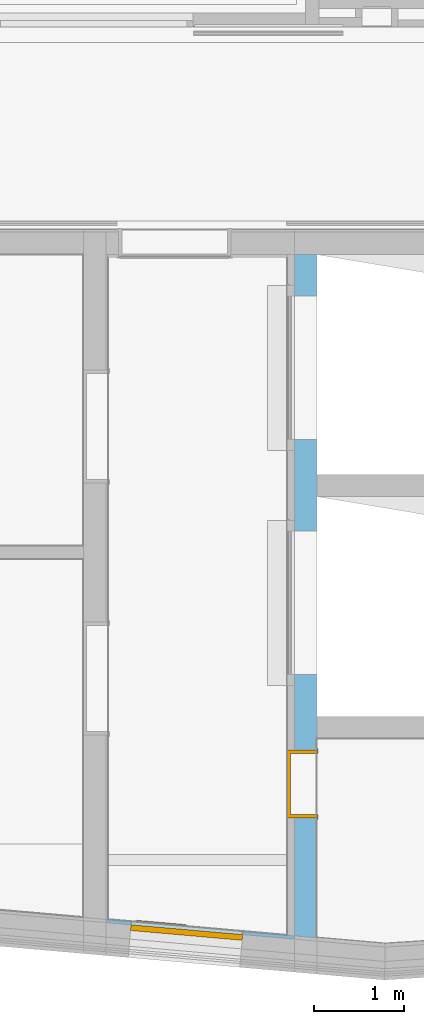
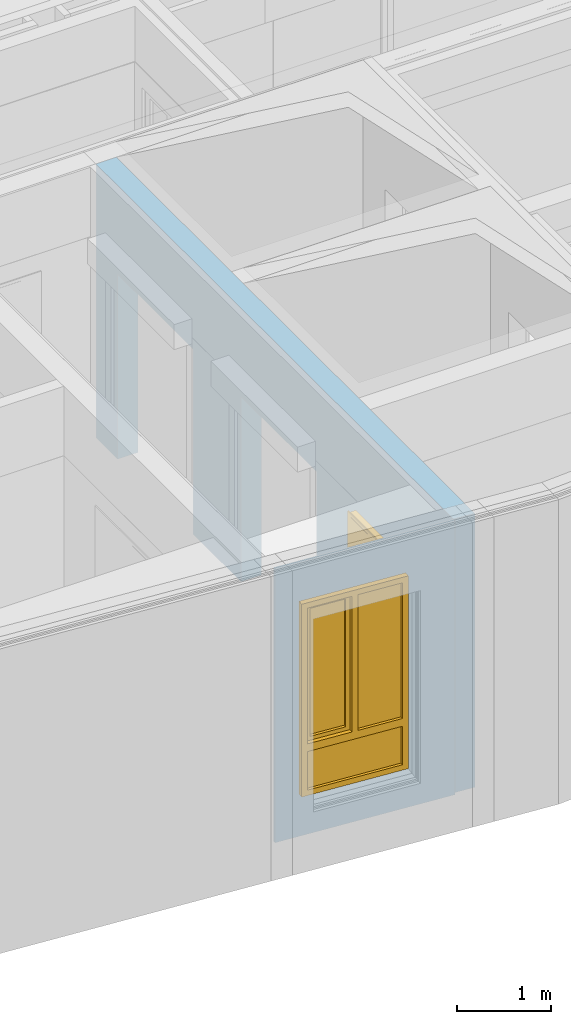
# One storey, part 79 of 222: 1 door, 1 window, 5 openings, plus 2 elements that do not belong to this part.
"""IFC4 building model written with IfcOpenShell, lengths in metres."""

from ifc_helpers import new_model, entity, si_unit, converted_unit, derived_unit, frame, origin, origin_with_axes, place, context, subcontext, project, spatial, polyline, outline, extrude, closed_shell, open_shell, faceted_brep, surface_model, source, transform, mapped, material, type_object, element, fill, save


model = new_model("IFC4")

# Units and contexts
model_context = context("Model", 3, precision=1e-05, world=origin())
body_context = subcontext(model_context, "Body", "Model", "MODEL_VIEW")
ifc_project = project(units=[si_unit("LENGTHUNIT", "METRE"), si_unit("AREAUNIT", "SQUARE_METRE"), si_unit("VOLUMEUNIT", "CUBIC_METRE"), si_unit("MASSUNIT", "GRAM", prefix="KILO"), converted_unit("PLANEANGLEUNIT", "DEGREE", entity("IfcPlaneAngleMeasure", 0.0174532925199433), si_unit("PLANEANGLEUNIT", "RADIAN"), dimensions=[0, 0, 0, 0, 0, 0, 0]), derived_unit("THERMALTRANSMITTANCEUNIT", [(si_unit("POWERUNIT", "WATT"), 1), (si_unit("THERMODYNAMICTEMPERATUREUNIT", "KELVIN"), -1), (si_unit("LENGTHUNIT", "METRE"), -2)]), derived_unit("VOLUMETRICFLOWRATEUNIT", [(si_unit("LENGTHUNIT", "METRE"), 3), (converted_unit("TIMEUNIT", "hour", entity("IfcTimeMeasure", 3600.0), si_unit("TIMEUNIT", "SECOND"), dimensions=[0, 0, 1, 0, 0, 0, 0]), -1), (si_unit("LENGTHUNIT", "METRE"), -1)])], contexts=[model_context])

# Site, building, storey
site_placement = place(None, origin())
site = spatial("IfcSite", under=ifc_project, at=site_placement, Name="Psychiatrie Neubau Wunstorf", CompositionType="ELEMENT")
building_placement = place(site_placement, origin())
building = spatial("IfcBuilding", under=site, at=building_placement, Name="Neubau H2 Stationsgebäude", CompositionType="ELEMENT")
storey_placement = place(building_placement, frame((0.0, 0.0, 3.6)))
storey = spatial("IfcBuildingStorey", under=building, at=storey_placement, Name="H2 Ebene +1", CompositionType="ELEMENT", Elevation=3.6)

# Wall, openings, window
ifc_material_1 = material(Name="WA-LB")
wall_1_placement = place(storey_placement, frame((47.0200048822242, -7.32418715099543, 0.0), z_axis=(0.0, 0.0, 1.0), x_axis=(-0.996173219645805, 0.0874008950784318, 0.0)))
wall_1 = element("IfcWall", 1, at=wall_1_placement, inside=storey, material=ifc_material_1, context=body_context, shape_type="SweptSolid", body=[
    extrude(outline(polyline([(-2.09276433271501, -0.2198892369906), (0.0192923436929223, -0.2198892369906), (0.016133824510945, -0.183889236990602), (-2.09592285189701, -0.183889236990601), (-2.09276433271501, -0.2198892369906)])), frame((2.09276433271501, 0.2198892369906, 0.0), z_axis=(0.0, 0.0, 1.0), x_axis=(1.0, 0.0, 0.0)), (0.0, 0.0, 1.0), 3.55),
])
opening_1_placement = place(wall_1_placement, frame((1.82678624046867, 0.195998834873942, 0.55), z_axis=(1.5631940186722e-14, -1.0, 0.0), x_axis=(0.0, 0.0, 1.0)))
element("IfcOpeningElement", 2, at=opening_1_placement, cuts=wall_1, Name="Fensteröffnung", ObjectType="Opening", context=body_context, shape_type="SweptSolid", body=[
    extrude(outline(polyline([(2.5, 1.25), (2.5, 0.0), (0.0, 0.0), (0.0, 1.25), (2.5, 1.25)])), origin_with_axes(), (0.0, 0.0, 1.0), 0.160000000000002),
])
opening_2_placement = place(wall_1_placement, frame((1.82678624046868, 0.0359988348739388, 0.55), z_axis=(8.21071605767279e-14, -1.0, 0.0), x_axis=(0.0, 0.0, 1.0)))
opening_2 = element("IfcOpeningElement", 3, at=opening_2_placement, cuts=wall_1, Name="Fensteröffnung", ObjectType="Opening", context=body_context, shape_type="SweptSolid", body=[
    extrude(outline(polyline([(2.5, 1.25), (2.5, 0.0), (0.0, 0.0), (0.0, 1.25), (2.5, 1.25)])), origin_with_axes(), (0.0, 0.0, 1.0), 0.0359999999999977),
])
shared_shape_1 = source(origin_with_axes(), body_context, "Body", "SurfaceModel", [
    surface_model("IfcShellBasedSurfaceModel", [(1.25000000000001, 0.0, 2.5), (1.25000000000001, 0.0, 0.0), (1.18000000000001, 0.0, 0.0), (1.18000000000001, 0.0, 2.5), (1.25000000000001, 0.0699999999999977, 0.0), (1.25000000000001, 0.0699999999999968, 2.5), (1.18000000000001, 0.0699999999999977, 2.5), (1.18000000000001, 0.0699999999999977, 0.0)], [closed_shell([[[0, 1, 2, 3]], [[4, 5, 6, 7]], [[1, 0, 5, 4]], [[2, 1, 4, 7]], [[3, 2, 7, 6]], [[0, 3, 6, 5]]], orient=[[False], [False], [False], [False], [False], [False]])]),
    surface_model("IfcShellBasedSurfaceModel", [(0.0700000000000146, 0.0, 2.5), (0.0700000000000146, 0.0, 0.0), (0.0, 0.0, 0.0), (0.0, 0.0, 2.5), (0.0700000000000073, 0.0699999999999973, 0.0), (0.0700000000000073, 0.0699999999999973, 2.5), (0.0, 0.0699999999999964, 2.5), (0.0, 0.0699999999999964, 0.0)], [closed_shell([[[0, 1, 2, 3]], [[4, 5, 6, 7]], [[1, 0, 5, 4]], [[2, 1, 4, 7]], [[3, 2, 7, 6]], [[0, 3, 6, 5]]], orient=[[False], [False], [False], [False], [False], [False]])]),
    surface_model("IfcShellBasedSurfaceModel", [(1.18000000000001, 0.0, 0.07), (1.18000000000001, 0.0, 0.0), (0.0700000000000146, 0.0, 0.0), (0.0700000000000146, 0.0, 0.07), (1.18000000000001, 0.0699999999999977, 0.0), (1.18000000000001, 0.0699999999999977, 0.07), (0.0700000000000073, 0.0699999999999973, 0.07), (0.0700000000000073, 0.0699999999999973, 0.0)], [closed_shell([[[0, 1, 2, 3]], [[4, 5, 6, 7]], [[1, 0, 5, 4]], [[2, 1, 4, 7]], [[3, 2, 7, 6]], [[0, 3, 6, 5]]], orient=[[False], [False], [False], [False], [False], [False]])]),
    surface_model("IfcShellBasedSurfaceModel", [(1.18000000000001, 0.0, 2.5), (1.18000000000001, 0.0, 2.43), (0.0700000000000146, 0.0, 2.43), (0.0700000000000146, 0.0, 2.5), (1.18000000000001, 0.0699999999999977, 2.43), (1.18000000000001, 0.0699999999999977, 2.5), (0.0700000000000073, 0.0699999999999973, 2.5), (0.0700000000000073, 0.0699999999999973, 2.43)], [closed_shell([[[0, 1, 2, 3]], [[4, 5, 6, 7]], [[1, 0, 5, 4]], [[2, 1, 4, 7]], [[3, 2, 7, 6]], [[0, 3, 6, 5]]], orient=[[False], [False], [False], [False], [False], [False]])]),
    surface_model("IfcShellBasedSurfaceModel", [(1.18000000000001, 0.0, 0.67), (1.18000000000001, 0.0, 0.57), (0.0700000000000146, 0.0, 0.57), (0.0700000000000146, 0.0, 0.67), (1.18000000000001, 0.0699999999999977, 0.57), (1.18000000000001, 0.0699999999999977, 0.67), (0.0700000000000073, 0.0699999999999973, 0.67), (0.0700000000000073, 0.0699999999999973, 0.57)], [closed_shell([[[0, 1, 2, 3]], [[4, 5, 6, 7]], [[1, 0, 5, 4]], [[2, 1, 4, 7]], [[3, 2, 7, 6]], [[0, 3, 6, 5]]], orient=[[False], [False], [False], [False], [False], [False]])]),
    surface_model("IfcShellBasedSurfaceModel", [(1.18000000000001, 0.0350000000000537, 0.07), (0.07, 0.0350000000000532, 0.07), (0.07, 0.0350000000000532, 0.57), (1.18000000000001, 0.0350000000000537, 0.57)], [open_shell([[[0, 1, 2, 3]]], orient=[[False]])]),
    surface_model("IfcShellBasedSurfaceModel", [(0.66, 0.0, 2.43), (0.66, 0.0, 0.67), (0.590000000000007, 0.0, 0.67), (0.590000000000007, 0.0, 2.43), (0.660000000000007, 0.0699999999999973, 0.67), (0.660000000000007, 0.0699999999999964, 2.43), (0.590000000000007, 0.0699999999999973, 2.43), (0.590000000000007, 0.0699999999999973, 0.67)], [closed_shell([[[0, 1, 2, 3]], [[4, 5, 6, 7]], [[1, 0, 5, 4]], [[2, 1, 4, 7]], [[3, 2, 7, 6]], [[0, 3, 6, 5]]], orient=[[False], [False], [False], [False], [False], [False]])]),
    surface_model("IfcShellBasedSurfaceModel", [(1.20000000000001, -0.0499999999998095, 2.45), (1.20000000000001, -0.0499999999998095, 0.65), (1.13000000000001, -0.0499999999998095, 0.65), (1.13000000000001, -0.0499999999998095, 2.45), (1.20000000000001, 0.0200000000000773, 0.65), (1.20000000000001, 0.0200000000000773, 2.45), (1.13000000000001, 0.0200000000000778, 2.45), (1.13000000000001, 0.0200000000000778, 0.65)], [closed_shell([[[0, 1, 2, 3]], [[4, 5, 6, 7]], [[1, 0, 5, 4]], [[2, 1, 4, 7]], [[3, 2, 7, 6]], [[0, 3, 6, 5]]], orient=[[False], [False], [False], [False], [False], [False]])]),
    surface_model("IfcShellBasedSurfaceModel", [(0.710000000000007, -0.0499999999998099, 2.45), (0.710000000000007, -0.0499999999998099, 0.65), (0.640000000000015, -0.0499999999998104, 0.65), (0.640000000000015, -0.0499999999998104, 2.45), (0.710000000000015, 0.0200000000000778, 0.65), (0.710000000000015, 0.0200000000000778, 2.45), (0.640000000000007, 0.0200000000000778, 2.45), (0.640000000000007, 0.0200000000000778, 0.65)], [closed_shell([[[0, 1, 2, 3]], [[4, 5, 6, 7]], [[1, 0, 5, 4]], [[2, 1, 4, 7]], [[3, 2, 7, 6]], [[0, 3, 6, 5]]], orient=[[False], [False], [False], [False], [False], [False]])]),
    surface_model("IfcShellBasedSurfaceModel", [(1.13000000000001, -0.0499999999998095, 0.72), (1.13000000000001, -0.0499999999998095, 0.65), (0.710000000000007, -0.0499999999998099, 0.65), (0.710000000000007, -0.0499999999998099, 0.72), (1.13000000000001, 0.0200000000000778, 0.65), (1.13000000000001, 0.0200000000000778, 0.72), (0.710000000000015, 0.0200000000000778, 0.72), (0.710000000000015, 0.0200000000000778, 0.65)], [closed_shell([[[0, 1, 2, 3]], [[4, 5, 6, 7]], [[1, 0, 5, 4]], [[2, 1, 4, 7]], [[3, 2, 7, 6]], [[0, 3, 6, 5]]], orient=[[False], [False], [False], [False], [False], [False]])]),
    surface_model("IfcShellBasedSurfaceModel", [(1.13000000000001, -0.0499999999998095, 2.45), (1.13000000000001, -0.0499999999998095, 2.38), (0.710000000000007, -0.0499999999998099, 2.38), (0.710000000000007, -0.0499999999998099, 2.45), (1.13000000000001, 0.0200000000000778, 2.38), (1.13000000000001, 0.0200000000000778, 2.45), (0.710000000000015, 0.0200000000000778, 2.45), (0.710000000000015, 0.0200000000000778, 2.38)], [closed_shell([[[0, 1, 2, 3]], [[4, 5, 6, 7]], [[1, 0, 5, 4]], [[2, 1, 4, 7]], [[3, 2, 7, 6]], [[0, 3, 6, 5]]], orient=[[False], [False], [False], [False], [False], [False]])]),
    surface_model("IfcShellBasedSurfaceModel", [(0.590000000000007, 0.0350000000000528, 0.67), (0.07, 0.0350000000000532, 0.67), (0.07, 0.0350000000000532, 2.43), (0.590000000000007, 0.0350000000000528, 2.43)], [open_shell([[[0, 1, 2, 3]]], orient=[[False]])]),
    surface_model("IfcShellBasedSurfaceModel", [(1.13000000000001, -0.0149999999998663, 0.72), (0.710000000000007, -0.0149999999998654, 0.72), (0.710000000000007, -0.0149999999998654, 2.38), (1.13000000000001, -0.0149999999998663, 2.38)], [open_shell([[[0, 1, 2, 3]]], orient=[[False]])]),
])
window_placement = place(opening_2_placement, frame((0.0, 1.24999999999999, 0.00599999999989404), z_axis=(1.0, 0.0, 0.0), x_axis=(0.0, -1.0, 7.83401121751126e-14)))
window = element("IfcWindow", 4, at=window_placement, inside=storey, Name="Fenster", OverallHeight=2.5, OverallWidth=1.25, PartitioningType="USERDEFINED", PredefinedType="WINDOW", context=body_context, shape_type="MappedRepresentation", body=[
    mapped(shared_shape_1, transform((0.0, 0.0, 0.0), x_axis=(1.0, 0.0, 0.0), y_axis=(0.0, 1.0, 0.0), z_axis=(0.0, 0.0, 1.0), scale=1.0)),
])
fill(opening_2, window)

# Wall, openings, door
ifc_material_2 = material(Name="WI-STB")
wall_2_placement = place(storey_placement, frame((47.2700048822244, -7.34612131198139, 0.0), z_axis=(0.0, 0.0, 1.0), x_axis=(0.0, 1.0, 0.0)))
wall_2 = element("IfcWall", 5, at=wall_2_placement, inside=storey, material=ifc_material_2, context=body_context, shape_type="SweptSolid", body=[
    extrude(outline(polyline([(0.0, -0.25000000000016), (7.62112131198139, -0.25000000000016), (7.62112131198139, 0.0), (0.0219341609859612, 0.0), (0.0, -0.25000000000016)])), frame((0.0, 0.25000000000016, 0.0), z_axis=(0.0, 0.0, 1.0), x_axis=(1.0, 0.0, 0.0)), (0.0, 0.0, 1.0), 3.55),
])
opening_3_placement = place(wall_2_placement, frame((7.15876912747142, 0.25000000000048, 0.0), z_axis=(0.0, -1.0, 0.0), x_axis=(0.0, 0.0, 1.0)))
element("IfcOpeningElement", 6, at=opening_3_placement, cuts=wall_2, Name="Türöffnung", ObjectType="Opening", context=body_context, shape_type="SweptSolid", body=[
    extrude(outline(polyline([(2.4, 1.6), (2.4, 0.0), (0.0, 0.0), (0.0, 1.6), (2.4, 1.6)])), origin_with_axes(), (0.0, 0.0, 1.0), 0.25000000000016),
])
opening_4_placement = place(wall_2_placement, frame((4.5361332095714, 0.25000000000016, 0.0), z_axis=(0.0, -1.0, 0.0), x_axis=(0.0, 0.0, 1.0)))
element("IfcOpeningElement", 7, at=opening_4_placement, cuts=wall_2, Name="Türöffnung", ObjectType="Opening", context=body_context, shape_type="SweptSolid", body=[
    extrude(outline(polyline([(2.4, 1.6), (2.4, 0.0), (0.0, 0.0), (0.0, 1.6), (2.4, 1.6)])), origin_with_axes(), (0.0, 0.0, 1.0), 0.25000000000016),
])
opening_5_placement = place(wall_2_placement, frame((2.09576645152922, 0.25000000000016, 0.0), z_axis=(0.0, -1.0, 0.0), x_axis=(0.0, 0.0, 1.0)))
opening_5 = element("IfcOpeningElement", 8, at=opening_5_placement, cuts=wall_2, Name="Türöffnung", ObjectType="Opening", context=body_context, shape_type="SweptSolid", body=[
    extrude(outline(polyline([(2.41, 0.76), (2.41, 0.0), (0.0, 0.0), (0.0, 0.76), (2.41, 0.76)])), origin_with_axes(), (0.0, 0.0, 1.0), 0.25000000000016),
])
ifc_material_3 = material(Name="TI-1F-UZ-D")
door_type = type_object("IfcDoorType", Name="SMT", OperationType="SINGLE_SWING_RIGHT", ParameterTakesPrecedence=False, PredefinedType="DOOR")
shared_shape_2 = source(origin_with_axes(), body_context, "Body", "Brep", [
    faceted_brep([(0.0, -0.0149999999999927, 2.41), (0.0400000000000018, -0.0149999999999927, 2.41), (0.0400000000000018, -0.0149999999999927, 0.15), (0.0, -0.0149999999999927, 0.15), (0.0, 0.345000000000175, 0.15), (0.0400000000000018, 0.345000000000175, 0.15), (0.0400000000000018, 0.345000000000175, 2.41), (0.0, 0.345000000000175, 2.41)], [[[0, 1, 2, 3]], [[4, 5, 6, 7]], [[3, 4, 7, 0]], [[2, 5, 4, 3]], [[1, 6, 5, 2]], [[0, 7, 6, 1]]], orient=[[False], [False], [False], [False], [False], [False]]),
    faceted_brep([(0.0, -0.0149999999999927, 2.425), (0.0, -0.0149999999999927, 0.15), (-0.0149999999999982, -0.0149999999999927, 0.15), (-0.0149999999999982, -0.0149999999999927, 2.425), (0.0, 0.0, 0.15), (0.0, 0.0, 2.425), (-0.0149999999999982, 0.0, 2.425), (-0.0149999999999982, 0.0, 0.15)], [[[0, 1, 2, 3]], [[4, 5, 6, 7]], [[1, 0, 5, 4]], [[2, 1, 4, 7]], [[3, 2, 7, 6]], [[0, 3, 6, 5]]], orient=[[False], [False], [False], [False], [False], [False]]),
    faceted_brep([(0.0, 0.330000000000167, 2.425), (0.0, 0.330000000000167, 0.15), (-0.0149999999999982, 0.330000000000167, 0.15), (-0.0149999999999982, 0.330000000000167, 2.425), (0.0, 0.345000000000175, 0.15), (0.0, 0.345000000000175, 2.425), (-0.0149999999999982, 0.345000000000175, 2.425), (-0.0149999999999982, 0.345000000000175, 0.15)], [[[0, 1, 2, 3]], [[4, 5, 6, 7]], [[1, 0, 5, 4]], [[2, 1, 4, 7]], [[3, 2, 7, 6]], [[0, 3, 6, 5]]], orient=[[False], [False], [False], [False], [False], [False]]),
    faceted_brep([(0.720000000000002, -0.0149999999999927, 2.41), (0.760000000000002, -0.0149999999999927, 2.41), (0.760000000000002, -0.0149999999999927, 0.15), (0.720000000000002, -0.0149999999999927, 0.15), (0.720000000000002, 0.345000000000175, 0.15), (0.760000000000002, 0.345000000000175, 0.15), (0.760000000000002, 0.345000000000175, 2.41), (0.720000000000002, 0.345000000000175, 2.41)], [[[0, 1, 2, 3]], [[4, 5, 6, 7]], [[3, 4, 7, 0]], [[2, 5, 4, 3]], [[1, 6, 5, 2]], [[0, 7, 6, 1]]], orient=[[False], [False], [False], [False], [False], [False]]),
    faceted_brep([(0.760000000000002, -0.0149999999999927, 2.425), (0.775000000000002, -0.0149999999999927, 2.425), (0.775000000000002, -0.0149999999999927, 0.15), (0.760000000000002, -0.0149999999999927, 0.15), (0.760000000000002, 0.0, 0.15), (0.775000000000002, 0.0, 0.15), (0.775000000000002, 0.0, 2.425), (0.760000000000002, 0.0, 2.425)], [[[0, 1, 2, 3]], [[4, 5, 6, 7]], [[3, 4, 7, 0]], [[2, 5, 4, 3]], [[1, 6, 5, 2]], [[0, 7, 6, 1]]], orient=[[False], [False], [False], [False], [False], [False]]),
    faceted_brep([(0.760000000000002, 0.330000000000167, 2.425), (0.775000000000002, 0.330000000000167, 2.425), (0.775000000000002, 0.330000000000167, 0.15), (0.760000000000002, 0.330000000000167, 0.15), (0.760000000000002, 0.345000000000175, 0.15), (0.775000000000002, 0.345000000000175, 0.15), (0.775000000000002, 0.345000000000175, 2.425), (0.760000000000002, 0.345000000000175, 2.425)], [[[0, 1, 2, 3]], [[4, 5, 6, 7]], [[3, 4, 7, 0]], [[2, 5, 4, 3]], [[1, 6, 5, 2]], [[0, 7, 6, 1]]], orient=[[False], [False], [False], [False], [False], [False]]),
    faceted_brep([(0.0400000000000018, -0.0149999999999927, 2.41), (0.720000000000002, -0.0149999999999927, 2.41), (0.720000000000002, -0.0149999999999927, 2.37), (0.0400000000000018, -0.0149999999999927, 2.37), (0.0400000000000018, 0.345000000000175, 2.37), (0.720000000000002, 0.345000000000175, 2.37), (0.720000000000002, 0.345000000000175, 2.41), (0.0400000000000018, 0.345000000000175, 2.41)], [[[0, 1, 2, 3]], [[4, 5, 6, 7]], [[3, 4, 7, 0]], [[2, 5, 4, 3]], [[1, 6, 5, 2]], [[0, 7, 6, 1]]], orient=[[False], [False], [False], [False], [False], [False]]),
    faceted_brep([(0.0, -0.0149999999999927, 2.425), (0.760000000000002, -0.0149999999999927, 2.425), (0.760000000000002, -0.0149999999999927, 2.41), (0.0, -0.0149999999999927, 2.41), (0.0, 0.0, 2.41), (0.760000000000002, 0.0, 2.41), (0.760000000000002, 0.0, 2.425), (0.0, 0.0, 2.425)], [[[0, 1, 2, 3]], [[4, 5, 6, 7]], [[3, 4, 7, 0]], [[2, 5, 4, 3]], [[1, 6, 5, 2]], [[0, 7, 6, 1]]], orient=[[False], [False], [False], [False], [False], [False]]),
    faceted_brep([(0.0, 0.330000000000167, 2.425), (0.760000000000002, 0.330000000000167, 2.425), (0.760000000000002, 0.330000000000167, 2.41), (0.0, 0.330000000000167, 2.41), (0.0, 0.345000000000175, 2.41), (0.760000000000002, 0.345000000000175, 2.41), (0.760000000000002, 0.345000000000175, 2.425), (0.0, 0.345000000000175, 2.425)], [[[0, 1, 2, 3]], [[4, 5, 6, 7]], [[3, 4, 7, 0]], [[2, 5, 4, 3]], [[1, 6, 5, 2]], [[0, 7, 6, 1]]], orient=[[False], [False], [False], [False], [False], [False]]),
    faceted_brep([(0.0250000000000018, 0.296000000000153, 2.385), (0.735000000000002, 0.296000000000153, 2.385), (0.735000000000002, 0.296000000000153, 0.15), (0.0250000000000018, 0.296000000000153, 0.15), (0.0250000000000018, 0.346000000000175, 0.15), (0.735000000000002, 0.346000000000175, 0.15), (0.735000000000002, 0.346000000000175, 2.385), (0.0250000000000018, 0.346000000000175, 2.385)], [[[0, 1, 2, 3]], [[4, 5, 6, 7]], [[3, 4, 7, 0]], [[2, 5, 4, 3]], [[1, 6, 5, 2]], [[0, 7, 6, 1]]], orient=[[False], [False], [False], [False], [False], [False]]),
])
door_placement = place(opening_5_placement, frame((0.0, 0.76, 0.25000000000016), z_axis=(1.0, 0.0, 0.0), x_axis=(0.0, -1.0, 0.0)))
door = element("IfcDoor", 9, at=door_placement, inside=storey, type_object=door_type, material=ifc_material_3, Name="SMT", OverallHeight=2.41, OverallWidth=0.76, context=body_context, shape_type="MappedRepresentation", body=[
    mapped(shared_shape_2, transform((0.0, 0.0, 0.0), x_axis=(1.0, 0.0, 0.0), y_axis=(0.0, 1.0, 0.0), z_axis=(0.0, 0.0, 1.0), scale=1.0)),
])
fill(opening_5, door)

save(model, "model.ifc")
